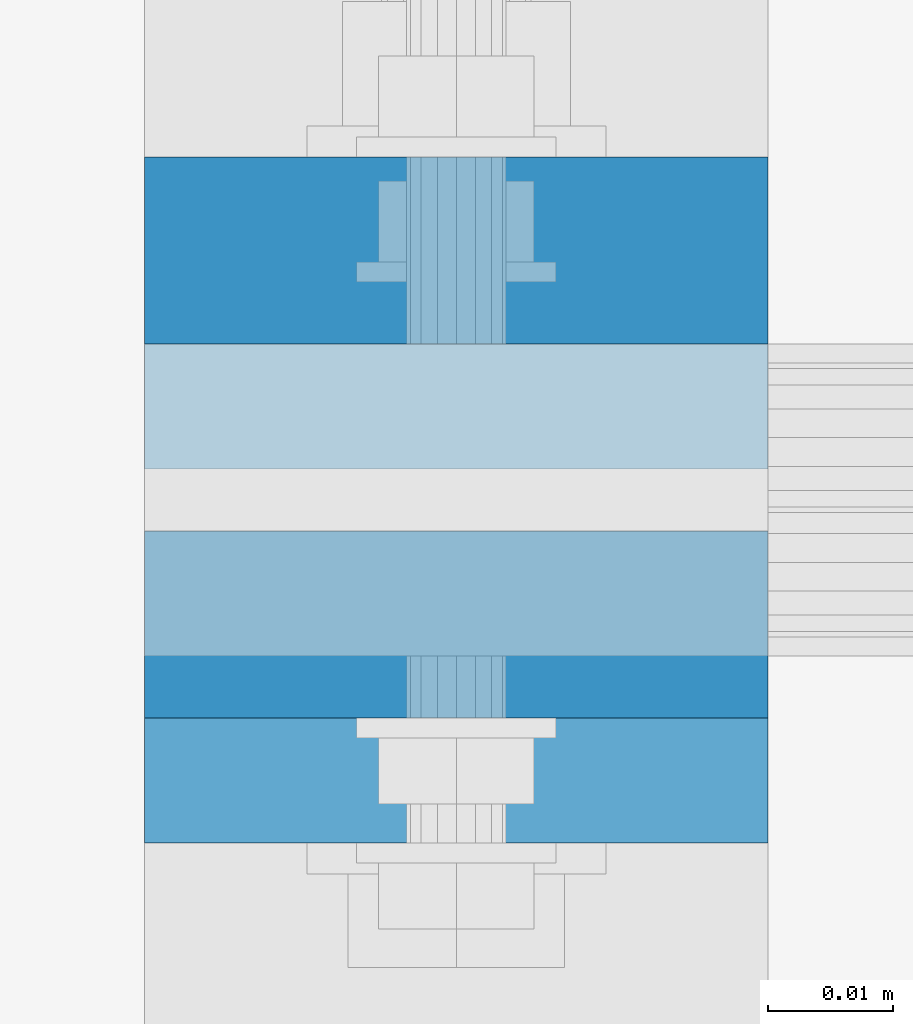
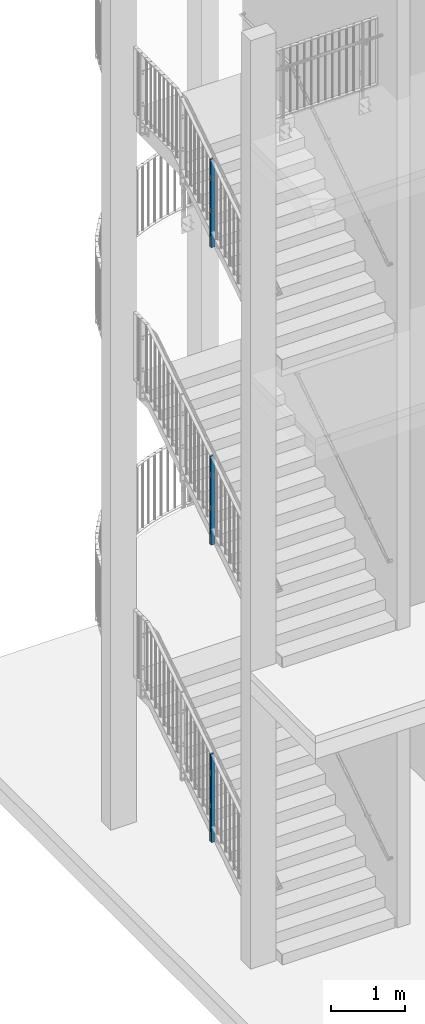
# One storey, part 14 of 296: 6 columns, 36 openings.
"""IFC2X3 building model written with IfcOpenShell, lengths in millimetres."""

from ifc_helpers import new_model, entity, si_unit, converted_unit, frame, frame_2d, origin, origin_with_axes, origin_2d, place, context, project, spatial, rectangle, circle, extrude, clip, halfspace, material, element, save


model = new_model("IFC2X3")

# Units and contexts
model_context = context("Model", 3, precision=1e-09, world=origin_with_axes())
ifc_project = project(units=[si_unit("LENGTHUNIT", "METRE", prefix="MILLI"), si_unit("AREAUNIT", "SQUARE_METRE"), si_unit("VOLUMEUNIT", "CUBIC_METRE"), converted_unit("PLANEANGLEUNIT", "DEGREE", entity("IfcPlaneAngleMeasure", 0.01745329), si_unit("PLANEANGLEUNIT", "RADIAN"), dimensions=[0, 0, 0, 0, 0, 0, 0])], contexts=[model_context])

# Site, building, storey
site_placement = place(None, origin_with_axes())
site = spatial("IfcSite", under=ifc_project, at=site_placement, Name="TZD-S?d | Treppenhausgel?nder", CompositionType="ELEMENT")
building_placement = place(site_placement, origin_with_axes())
building = spatial("IfcBuilding", under=site, at=building_placement, Name="Struktur 1", CompositionType="ELEMENT")
storey_placement = place(building_placement, origin_with_axes())
storey = spatial("IfcBuildingStorey", under=building, at=storey_placement, Name="Default Storey", CompositionType="ELEMENT", Elevation=0.0)

# Column, openings
ifc_material = material(Name="S235JR")
column_1_placement = place(None, frame((-45.0, -2355.0, 10779.999), z_axis=(0.0, 0.0, -1.0), x_axis=(0.0, -1.0, 0.0)))
column_1 = element("IfcColumn", 1, at=column_1_placement, inside=storey, material=ifc_material, Name="-", ObjectType="-", context=model_context, shape_type="Clipping", body=[
    clip(extrude(rectangle(XDim=15.0, YDim=50.0, at=origin_2d()), origin(), (0.0, 0.0, -1.0), 1476.949777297), halfspace(frame((3918.128925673, -45.0, 1090.908189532), z_axis=(-0.543478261, 0.0, 0.839423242), x_axis=(0.0, 1.0, 0.0)), True)),
])
opening_1_placement = place(column_1_placement, frame((-8.0, 0.0, -85.0), z_axis=(1.0, 0.0, 0.0), x_axis=(0.0, -1.0, 0.0)))
element("IfcOpeningElement", 2, at=opening_1_placement, cuts=column_1, ObjectType="Opening", context=model_context, shape_type="SweptSolid", body=[
    extrude(circle(Radius=7.001, at=frame_2d((0.0, 50.0), x_axis=(1.0, 0.0))), origin(), (0.0, 0.0, 1.0), 16.0),
])
opening_2_placement = place(column_1_placement, frame((-8.0, 0.0, -85.0), z_axis=(1.0, 0.0, 0.0), x_axis=(0.0, -1.0, 0.0)))
element("IfcOpeningElement", 3, at=opening_2_placement, cuts=column_1, ObjectType="Opening", context=model_context, shape_type="SweptSolid", body=[
    extrude(circle(Radius=7.001, at=frame_2d((0.0, -50.0), x_axis=(1.0, 0.0))), origin(), (0.0, 0.0, 1.0), 16.0),
])
opening_3_placement = place(column_1_placement, frame((-8.0, 0.0, -599.999999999), z_axis=(1.0, 0.0, 0.0), x_axis=(0.0, -1.0, 0.0)))
element("IfcOpeningElement", 4, at=opening_3_placement, cuts=column_1, ObjectType="Opening", context=model_context, shape_type="SweptSolid", body=[
    extrude(circle(Radius=5.001, at=frame_2d((0.0, 25.0), x_axis=(1.0, 0.0))), origin(), (0.0, 0.0, 1.0), 16.0),
])
opening_4_placement = place(column_1_placement, frame((-8.0, 0.0, -599.999999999), z_axis=(1.0, 0.0, 0.0), x_axis=(0.0, -1.0, 0.0)))
element("IfcOpeningElement", 5, at=opening_4_placement, cuts=column_1, ObjectType="Opening", context=model_context, shape_type="SweptSolid", body=[
    extrude(circle(Radius=5.001, at=frame_2d((0.0, -25.0), x_axis=(1.0, 0.0))), origin(), (0.0, 0.0, 1.0), 16.0),
])
opening_5_placement = place(column_1_placement, frame((-8.0, 0.0, -1138.643837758), z_axis=(1.0, 0.0, 0.0), x_axis=(0.0, -1.0, 0.0)))
element("IfcOpeningElement", 6, at=opening_5_placement, cuts=column_1, ObjectType="Opening", context=model_context, shape_type="SweptSolid", body=[
    extrude(circle(Radius=5.001, at=frame_2d((0.0, 25.0), x_axis=(1.0, 0.0))), origin(), (0.0, 0.0, 1.0), 16.0),
])
opening_6_placement = place(column_1_placement, frame((-8.0, 0.0, -1138.643837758), z_axis=(1.0, 0.0, 0.0), x_axis=(0.0, -1.0, 0.0)))
element("IfcOpeningElement", 7, at=opening_6_placement, cuts=column_1, ObjectType="Opening", context=model_context, shape_type="SweptSolid", body=[
    extrude(circle(Radius=5.001, at=frame_2d((0.0, -25.0), x_axis=(1.0, 0.0))), origin(), (0.0, 0.0, 1.0), 16.0),
])

column_2_placement = place(None, frame((-45.0, -2385.0, 10779.999), z_axis=(0.0, 0.0, 1.0), x_axis=(0.0, 1.0, 0.0)))
column_2 = element("IfcColumn", 8, at=column_2_placement, inside=storey, material=ifc_material, Name="-", ObjectType="-", context=model_context, shape_type="Clipping", body=[
    clip(extrude(rectangle(XDim=15.0, YDim=50.0, at=origin_2d()), origin(), (0.0, 0.0, 1.0), 1457.526503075), halfspace(frame((-3888.128925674, -45.0, -1090.908189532), z_axis=(0.543478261, 0.0, -0.839423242), x_axis=(0.0, 1.0, 0.0)), True)),
])
opening_7_placement = place(column_2_placement, frame((8.0, 0.0, 599.999999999), z_axis=(-1.0, 0.0, 0.0), x_axis=(0.0, -1.0, 0.0)))
element("IfcOpeningElement", 9, at=opening_7_placement, cuts=column_2, ObjectType="Opening", context=model_context, shape_type="SweptSolid", body=[
    extrude(circle(Radius=5.001, at=frame_2d((0.0, 25.0), x_axis=(1.0, 0.0))), origin(), (0.0, 0.0, 1.0), 16.0),
])
opening_8_placement = place(column_2_placement, frame((8.0, 0.0, 599.999999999), z_axis=(-1.0, 0.0, 0.0), x_axis=(0.0, -1.0, 0.0)))
element("IfcOpeningElement", 10, at=opening_8_placement, cuts=column_2, ObjectType="Opening", context=model_context, shape_type="SweptSolid", body=[
    extrude(circle(Radius=5.001, at=frame_2d((0.0, -25.0), x_axis=(1.0, 0.0))), origin(), (0.0, 0.0, 1.0), 16.0),
])
opening_9_placement = place(column_2_placement, frame((8.0, 0.0, 85.0), z_axis=(-1.0, 0.0, 0.0), x_axis=(0.0, -1.0, 0.0)))
element("IfcOpeningElement", 11, at=opening_9_placement, cuts=column_2, ObjectType="Opening", context=model_context, shape_type="SweptSolid", body=[
    extrude(circle(Radius=7.001, at=frame_2d((0.0, 50.0), x_axis=(1.0, 0.0))), origin(), (0.0, 0.0, 1.0), 16.0),
])
opening_10_placement = place(column_2_placement, frame((8.0, 0.0, 85.0), z_axis=(-1.0, 0.0, 0.0), x_axis=(0.0, -1.0, 0.0)))
element("IfcOpeningElement", 12, at=opening_10_placement, cuts=column_2, ObjectType="Opening", context=model_context, shape_type="SweptSolid", body=[
    extrude(circle(Radius=7.001, at=frame_2d((0.0, -50.0), x_axis=(1.0, 0.0))), origin(), (0.0, 0.0, 1.0), 16.0),
])
opening_11_placement = place(column_2_placement, frame((8.0, 0.0, 1138.643837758), z_axis=(-1.0, 0.0, 0.0), x_axis=(0.0, -1.0, 0.0)))
element("IfcOpeningElement", 13, at=opening_11_placement, cuts=column_2, ObjectType="Opening", context=model_context, shape_type="SweptSolid", body=[
    extrude(circle(Radius=5.001, at=frame_2d((0.0, 25.0), x_axis=(1.0, 0.0))), origin(), (0.0, 0.0, 1.0), 16.0),
])
opening_12_placement = place(column_2_placement, frame((8.0, 0.0, 1138.643837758), z_axis=(-1.0, 0.0, 0.0), x_axis=(0.0, -1.0, 0.0)))
element("IfcOpeningElement", 14, at=opening_12_placement, cuts=column_2, ObjectType="Opening", context=model_context, shape_type="SweptSolid", body=[
    extrude(circle(Radius=5.001, at=frame_2d((0.0, -25.0), x_axis=(1.0, 0.0))), origin(), (0.0, 0.0, 1.0), 16.0),
])

column_3_placement = place(None, frame((-45.0, -2355.0, 5879.999), z_axis=(0.0, 0.0, -1.0), x_axis=(0.0, -1.0, 0.0)))
column_3 = element("IfcColumn", 15, at=column_3_placement, inside=storey, material=ifc_material, Name="-", ObjectType="-", context=model_context, shape_type="Clipping", body=[
    clip(extrude(rectangle(XDim=15.0, YDim=50.0, at=origin_2d()), origin(), (0.0, 0.0, -1.0), 1482.547037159), halfspace(frame((1677.321061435, -45.0, -369.181739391), z_axis=(-0.542183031, 0.0, 0.840260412), x_axis=(0.0, 1.0, 0.0)), True)),
])
opening_13_placement = place(column_3_placement, frame((-8.0, 0.0, -85.0), z_axis=(1.0, 0.0, 0.0), x_axis=(0.0, -1.0, 0.0)))
element("IfcOpeningElement", 16, at=opening_13_placement, cuts=column_3, ObjectType="Opening", context=model_context, shape_type="SweptSolid", body=[
    extrude(circle(Radius=7.001, at=frame_2d((0.0, 50.0), x_axis=(1.0, 0.0))), origin(), (0.0, 0.0, 1.0), 16.0),
])
opening_14_placement = place(column_3_placement, frame((-8.0, 0.0, -85.0), z_axis=(1.0, 0.0, 0.0), x_axis=(0.0, -1.0, 0.0)))
element("IfcOpeningElement", 17, at=opening_14_placement, cuts=column_3, ObjectType="Opening", context=model_context, shape_type="SweptSolid", body=[
    extrude(circle(Radius=7.001, at=frame_2d((0.0, -50.0), x_axis=(1.0, 0.0))), origin(), (0.0, 0.0, 1.0), 16.0),
])
opening_15_placement = place(column_3_placement, frame((-8.0, 0.0, -599.999999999), z_axis=(1.0, 0.0, 0.0), x_axis=(0.0, -1.0, 0.0)))
element("IfcOpeningElement", 18, at=opening_15_placement, cuts=column_3, ObjectType="Opening", context=model_context, shape_type="SweptSolid", body=[
    extrude(circle(Radius=5.001, at=frame_2d((0.0, 25.0), x_axis=(1.0, 0.0))), origin(), (0.0, 0.0, 1.0), 16.0),
])
opening_16_placement = place(column_3_placement, frame((-8.0, 0.0, -599.999999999), z_axis=(1.0, 0.0, 0.0), x_axis=(0.0, -1.0, 0.0)))
element("IfcOpeningElement", 19, at=opening_16_placement, cuts=column_3, ObjectType="Opening", context=model_context, shape_type="SweptSolid", body=[
    extrude(circle(Radius=5.001, at=frame_2d((0.0, -25.0), x_axis=(1.0, 0.0))), origin(), (0.0, 0.0, 1.0), 16.0),
])
opening_17_placement = place(column_3_placement, frame((-8.0, 0.0, -1144.329549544), z_axis=(1.0, 0.0, 0.0), x_axis=(0.0, -1.0, 0.0)))
element("IfcOpeningElement", 20, at=opening_17_placement, cuts=column_3, ObjectType="Opening", context=model_context, shape_type="SweptSolid", body=[
    extrude(circle(Radius=5.001, at=frame_2d((0.0, 25.0), x_axis=(1.0, 0.0))), origin(), (0.0, 0.0, 1.0), 16.0),
])
opening_18_placement = place(column_3_placement, frame((-8.0, 0.0, -1144.329549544), z_axis=(1.0, 0.0, 0.0), x_axis=(0.0, -1.0, 0.0)))
element("IfcOpeningElement", 21, at=opening_18_placement, cuts=column_3, ObjectType="Opening", context=model_context, shape_type="SweptSolid", body=[
    extrude(circle(Radius=5.001, at=frame_2d((0.0, -25.0), x_axis=(1.0, 0.0))), origin(), (0.0, 0.0, 1.0), 16.0),
])

column_4_placement = place(None, frame((-45.0, -2385.0, 5879.999), z_axis=(0.0, 0.0, 1.0), x_axis=(0.0, 1.0, 0.0)))
column_4 = element("IfcColumn", 22, at=column_4_placement, inside=storey, material=ifc_material, Name="-", ObjectType="-", context=model_context, shape_type="Clipping", body=[
    clip(extrude(rectangle(XDim=15.0, YDim=50.0, at=origin_2d()), origin(), (0.0, 0.0, 1.0), 1463.189358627), halfspace(frame((-1647.321061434, -45.0, 369.181739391), z_axis=(0.542183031, 0.0, -0.840260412), x_axis=(0.0, 1.0, 0.0)), True)),
])
opening_19_placement = place(column_4_placement, frame((8.0, 0.0, 599.999999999), z_axis=(-1.0, 0.0, 0.0), x_axis=(0.0, -1.0, 0.0)))
element("IfcOpeningElement", 23, at=opening_19_placement, cuts=column_4, ObjectType="Opening", context=model_context, shape_type="SweptSolid", body=[
    extrude(circle(Radius=5.001, at=frame_2d((0.0, 25.0), x_axis=(1.0, 0.0))), origin(), (0.0, 0.0, 1.0), 16.0),
])
opening_20_placement = place(column_4_placement, frame((8.0, 0.0, 599.999999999), z_axis=(-1.0, 0.0, 0.0), x_axis=(0.0, -1.0, 0.0)))
element("IfcOpeningElement", 24, at=opening_20_placement, cuts=column_4, ObjectType="Opening", context=model_context, shape_type="SweptSolid", body=[
    extrude(circle(Radius=5.001, at=frame_2d((0.0, -25.0), x_axis=(1.0, 0.0))), origin(), (0.0, 0.0, 1.0), 16.0),
])
opening_21_placement = place(column_4_placement, frame((8.0, 0.0, 85.0), z_axis=(-1.0, 0.0, 0.0), x_axis=(0.0, -1.0, 0.0)))
element("IfcOpeningElement", 25, at=opening_21_placement, cuts=column_4, ObjectType="Opening", context=model_context, shape_type="SweptSolid", body=[
    extrude(circle(Radius=7.001, at=frame_2d((0.0, 50.0), x_axis=(1.0, 0.0))), origin(), (0.0, 0.0, 1.0), 16.0),
])
opening_22_placement = place(column_4_placement, frame((8.0, 0.0, 85.0), z_axis=(-1.0, 0.0, 0.0), x_axis=(0.0, -1.0, 0.0)))
element("IfcOpeningElement", 26, at=opening_22_placement, cuts=column_4, ObjectType="Opening", context=model_context, shape_type="SweptSolid", body=[
    extrude(circle(Radius=7.001, at=frame_2d((0.0, -50.0), x_axis=(1.0, 0.0))), origin(), (0.0, 0.0, 1.0), 16.0),
])
opening_23_placement = place(column_4_placement, frame((8.0, 0.0, 1144.329549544), z_axis=(-1.0, 0.0, 0.0), x_axis=(0.0, -1.0, 0.0)))
element("IfcOpeningElement", 27, at=opening_23_placement, cuts=column_4, ObjectType="Opening", context=model_context, shape_type="SweptSolid", body=[
    extrude(circle(Radius=5.001, at=frame_2d((0.0, 25.0), x_axis=(1.0, 0.0))), origin(), (0.0, 0.0, 1.0), 16.0),
])
opening_24_placement = place(column_4_placement, frame((8.0, 0.0, 1144.329549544), z_axis=(-1.0, 0.0, 0.0), x_axis=(0.0, -1.0, 0.0)))
element("IfcOpeningElement", 28, at=opening_24_placement, cuts=column_4, ObjectType="Opening", context=model_context, shape_type="SweptSolid", body=[
    extrude(circle(Radius=5.001, at=frame_2d((0.0, -25.0), x_axis=(1.0, 0.0))), origin(), (0.0, 0.0, 1.0), 16.0),
])

column_5_placement = place(None, frame((-45.0, -2365.0, 979.999), z_axis=(0.0, 0.0, -1.0), x_axis=(0.0, -1.0, 0.0)))
column_5 = element("IfcColumn", 29, at=column_5_placement, inside=storey, material=ifc_material, Name="-", ObjectType="-", context=model_context, shape_type="Clipping", body=[
    clip(extrude(rectangle(XDim=15.0, YDim=50.0, at=origin_2d()), origin(), (0.0, 0.0, -1.0), 1479.807659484), halfspace(frame((-555.534388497, -45.0, -1809.103957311), z_axis=(-0.544258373, 0.0, 0.83891765), x_axis=(0.0, 1.0, 0.0)), True)),
])
opening_25_placement = place(column_5_placement, frame((-8.0, 0.0, -599.999999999), z_axis=(1.0, 0.0, 0.0), x_axis=(0.0, -1.0, 0.0)))
element("IfcOpeningElement", 30, at=opening_25_placement, cuts=column_5, ObjectType="Opening", context=model_context, shape_type="SweptSolid", body=[
    extrude(circle(Radius=5.001, at=frame_2d((0.0, 25.0), x_axis=(1.0, 0.0))), origin(), (0.0, 0.0, 1.0), 16.0),
])
opening_26_placement = place(column_5_placement, frame((-8.0, 0.0, -599.999999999), z_axis=(1.0, 0.0, 0.0), x_axis=(0.0, -1.0, 0.0)))
element("IfcOpeningElement", 31, at=opening_26_placement, cuts=column_5, ObjectType="Opening", context=model_context, shape_type="SweptSolid", body=[
    extrude(circle(Radius=5.001, at=frame_2d((0.0, -25.0), x_axis=(1.0, 0.0))), origin(), (0.0, 0.0, 1.0), 16.0),
])
opening_27_placement = place(column_5_placement, frame((-8.0, 0.0, -85.0), z_axis=(1.0, 0.0, 0.0), x_axis=(0.0, -1.0, 0.0)))
element("IfcOpeningElement", 32, at=opening_27_placement, cuts=column_5, ObjectType="Opening", context=model_context, shape_type="SweptSolid", body=[
    extrude(circle(Radius=7.001, at=frame_2d((0.0, 50.0), x_axis=(1.0, 0.0))), origin(), (0.0, 0.0, 1.0), 16.0),
])
opening_28_placement = place(column_5_placement, frame((-8.0, 0.0, -85.0), z_axis=(1.0, 0.0, 0.0), x_axis=(0.0, -1.0, 0.0)))
element("IfcOpeningElement", 33, at=opening_28_placement, cuts=column_5, ObjectType="Opening", context=model_context, shape_type="SweptSolid", body=[
    extrude(circle(Radius=7.001, at=frame_2d((0.0, -50.0), x_axis=(1.0, 0.0))), origin(), (0.0, 0.0, 1.0), 16.0),
])
opening_29_placement = place(column_5_placement, frame((-8.0, 0.0, -1141.448240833), z_axis=(1.0, 0.0, 0.0), x_axis=(0.0, -1.0, 0.0)))
element("IfcOpeningElement", 34, at=opening_29_placement, cuts=column_5, ObjectType="Opening", context=model_context, shape_type="SweptSolid", body=[
    extrude(circle(Radius=5.001, at=frame_2d((0.0, 25.0), x_axis=(1.0, 0.0))), origin(), (0.0, 0.0, 1.0), 16.0),
])
opening_30_placement = place(column_5_placement, frame((-8.0, 0.0, -1141.448240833), z_axis=(1.0, 0.0, 0.0), x_axis=(0.0, -1.0, 0.0)))
element("IfcOpeningElement", 35, at=opening_30_placement, cuts=column_5, ObjectType="Opening", context=model_context, shape_type="SweptSolid", body=[
    extrude(circle(Radius=5.001, at=frame_2d((0.0, -25.0), x_axis=(1.0, 0.0))), origin(), (0.0, 0.0, 1.0), 16.0),
])

column_6_placement = place(None, frame((-45.0, -2395.0, 979.999), z_axis=(0.0, 0.0, 1.0), x_axis=(0.0, 1.0, 0.0)))
column_6 = element("IfcColumn", 36, at=column_6_placement, inside=storey, material=ifc_material, Name="-", ObjectType="-", context=model_context, shape_type="Clipping", body=[
    clip(extrude(rectangle(XDim=15.0, YDim=50.0, at=origin_2d()), origin(), (0.0, 0.0, 1.0), 1460.344782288), halfspace(frame((585.534388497, -45.0, 1809.103957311), z_axis=(0.544258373, 0.0, -0.83891765), x_axis=(0.0, 1.0, 0.0)), True)),
])
opening_31_placement = place(column_6_placement, frame((8.0, 0.0, 599.999999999), z_axis=(-1.0, 0.0, 0.0), x_axis=(0.0, -1.0, 0.0)))
element("IfcOpeningElement", 37, at=opening_31_placement, cuts=column_6, ObjectType="Opening", context=model_context, shape_type="SweptSolid", body=[
    extrude(circle(Radius=5.001, at=frame_2d((0.0, 25.0), x_axis=(1.0, 0.0))), origin(), (0.0, 0.0, 1.0), 16.0),
])
opening_32_placement = place(column_6_placement, frame((8.0, 0.0, 599.999999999), z_axis=(-1.0, 0.0, 0.0), x_axis=(0.0, -1.0, 0.0)))
element("IfcOpeningElement", 38, at=opening_32_placement, cuts=column_6, ObjectType="Opening", context=model_context, shape_type="SweptSolid", body=[
    extrude(circle(Radius=5.001, at=frame_2d((0.0, -25.0), x_axis=(1.0, 0.0))), origin(), (0.0, 0.0, 1.0), 16.0),
])
opening_33_placement = place(column_6_placement, frame((8.0, 0.0, 85.0), z_axis=(-1.0, 0.0, 0.0), x_axis=(0.0, -1.0, 0.0)))
element("IfcOpeningElement", 39, at=opening_33_placement, cuts=column_6, ObjectType="Opening", context=model_context, shape_type="SweptSolid", body=[
    extrude(circle(Radius=7.001, at=frame_2d((0.0, 50.0), x_axis=(1.0, 0.0))), origin(), (0.0, 0.0, 1.0), 16.0),
])
opening_34_placement = place(column_6_placement, frame((8.0, 0.0, 85.0), z_axis=(-1.0, 0.0, 0.0), x_axis=(0.0, -1.0, 0.0)))
element("IfcOpeningElement", 40, at=opening_34_placement, cuts=column_6, ObjectType="Opening", context=model_context, shape_type="SweptSolid", body=[
    extrude(circle(Radius=7.001, at=frame_2d((0.0, -50.0), x_axis=(1.0, 0.0))), origin(), (0.0, 0.0, 1.0), 16.0),
])
opening_35_placement = place(column_6_placement, frame((8.0, 0.0, 1141.448240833), z_axis=(-1.0, 0.0, 0.0), x_axis=(0.0, -1.0, 0.0)))
element("IfcOpeningElement", 41, at=opening_35_placement, cuts=column_6, ObjectType="Opening", context=model_context, shape_type="SweptSolid", body=[
    extrude(circle(Radius=5.001, at=frame_2d((0.0, 25.0), x_axis=(1.0, 0.0))), origin(), (0.0, 0.0, 1.0), 16.0),
])
opening_36_placement = place(column_6_placement, frame((8.0, 0.0, 1141.448240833), z_axis=(-1.0, 0.0, 0.0), x_axis=(0.0, -1.0, 0.0)))
element("IfcOpeningElement", 42, at=opening_36_placement, cuts=column_6, ObjectType="Opening", context=model_context, shape_type="SweptSolid", body=[
    extrude(circle(Radius=5.001, at=frame_2d((0.0, -25.0), x_axis=(1.0, 0.0))), origin(), (0.0, 0.0, 1.0), 16.0),
])

save(model, "model.ifc")
